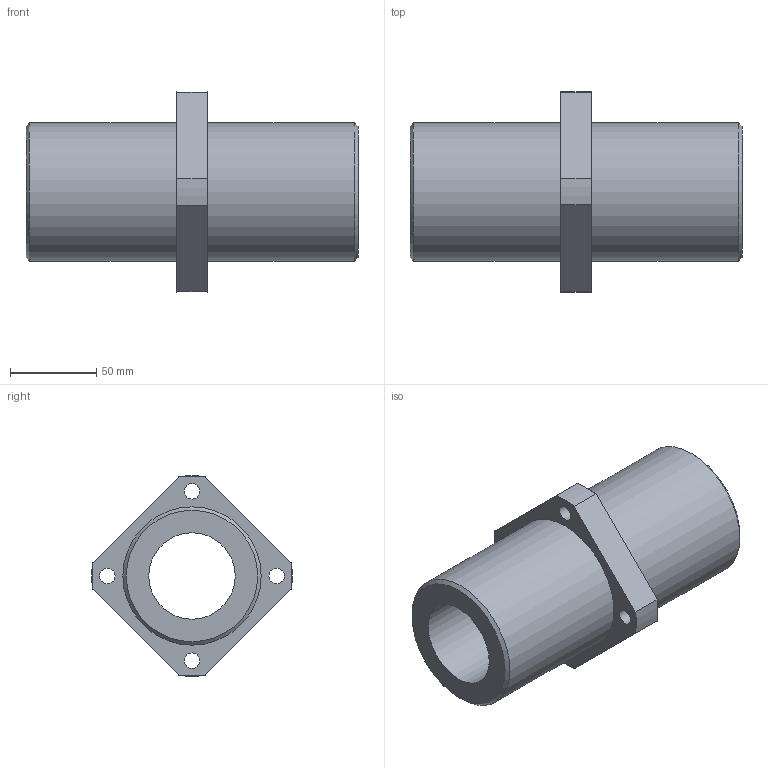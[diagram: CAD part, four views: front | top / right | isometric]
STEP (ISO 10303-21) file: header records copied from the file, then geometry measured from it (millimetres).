
FILE_DESCRIPTION(('STEP AP203'),'1');
FILE_NAME('//192.168.1.1/share/s-4 技術開発/s-4-4_CAD/s-4-4-3_見直し済み/PBC LINEAR修正済み/CFPJ/CFPJ_TOP/CFPJ/CFPJ50.step','2022-03-24T03:57:30',(' '),(' '),'Spatial InterOp 3D',' ',' ');
FILE_SCHEMA(('CONFIG_CONTROL_DESIGN'));
Length unit declared in the file: millimetre
Products named in the file (1): 1
Bounding box: 192 x 115.89 x 115.89 mm (x, y, z)
Volume: 637737.7 mm3; surface area: 94070.1 mm2
Topology: 1 solids, 1 shells, 37 faces, 91 edges, 62 vertices
Faces by surface type: cylinder 15, plane 12, cone 10
Full cylindrical faces by diameter (mm): 9 x4, 14 x4, 50 x1, 80 x2
Entity records: 1078 total; most frequent: CARTESIAN_POINT 214, DIRECTION 172, ORIENTED_EDGE 144, AXIS2_PLACEMENT_3D 78, EDGE_CURVE 72, EDGE_LOOP 66, VERTEX_POINT 56, FACE_OUTER_BOUND 48
